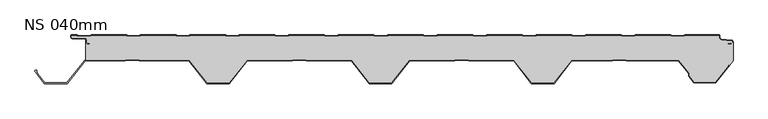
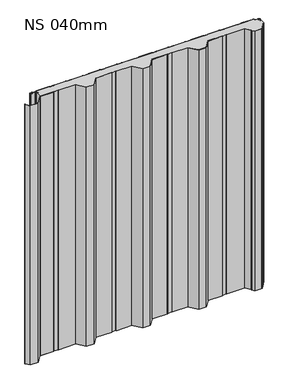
"""IFC4 building model written with IfcOpenShell, lengths in millimetres: plate geometry, KIP-MEX-KC-R19-CP-NS-SL : NS 040mm."""

from ifc_helpers import new_model, si_unit, point, frame, frame_2d, origin, origin_with_axes, place, context, project, spatial, polyline, circle_curve, trimmed, segment, composite_curve, outline, extrude, source, transform, mapped, element, save
from ifc_brep_helpers import plane_surface, cylinder_surface, revolved_surface, advanced_brep


def ns_040mm_68479433(model_context):
    return source(origin(), model_context, "Body", "SolidModel", [
        advanced_brep(
        [(489.051258, -50.0327477, 1224.3718713), (491.4166419, -45.6292245, 1224.3718713), (492.2982989, -46.1011177, 1224.3718713), (489.8911639, -50.5823669, 1224.3718713), (498.3652789, -39.7971296, 1224.3718713), (498.3666923, -11.2514375, 1224.3718713), (496.0840542, -13.6351997, 1224.3718713), (490.2938452, -14.1562355, 1224.3718713), (490.2059002, -13.178913, 1224.3718713), (495.9395891, -12.6629632, 1224.3718713), (497.3642752, -10.8760369, 1224.3718713), (495.9342793, -8.8936988, 1224.3718713), (479.8720443, -7.4885937, 1224.3718713), (477.1334803, -4.5000049, 1224.3718713), (477.1334803, -1.0, 1224.3718713), (424.1786391, -1.0, 1224.3718713), (422.7930062, -2.2002307, 1224.3718713), (403.4178399, -2.2002307, 1224.3718713), (402.0322069, -1.0, 1224.3718713), (347.9787915, -1.0, 1224.3718713), (346.5931586, -2.2002307, 1224.3718713), (327.2179923, -2.2002307, 1224.3718713), (325.8323593, -1.0, 1224.3718713), (271.7789439, -1.0, 1224.3718713), (270.393311, -2.2002307, 1224.3718713), (251.0181447, -2.2002307, 1224.3718713), (249.6325117, -1.0, 1224.3718713), (195.5790963, -1.0, 1224.3718713), (194.1934634, -2.2002307, 1224.3718713), (174.8182971, -2.2002307, 1224.3718713), (173.4326641, -1.0, 1224.3718713), (119.3792487, -1.0, 1224.3718713), (117.9936158, -2.2002307, 1224.3718713), (98.6184495, -2.2002307, 1224.3718713), (97.2328165, -1.0, 1224.3718713), (43.1794011, -1.0, 1224.3718713), (41.7937682, -2.2002307, 1224.3718713), (22.4186019, -2.2002307, 1224.3718713), (21.0329689, -1.0, 1224.3718713), (-33.0204465, -1.0, 1224.3718713), (-34.4060794, -2.2002307, 1224.3718713), (-53.7812457, -2.2002307, 1224.3718713), (-55.1668787, -1.0, 1224.3718713), (-109.2202941, -1.0, 1224.3718713), (-110.605927, -2.2002307, 1224.3718713), (-129.9810933, -2.2002307, 1224.3718713), (-131.3667263, -1.0, 1224.3718713), (-185.4201417, -1.0, 1224.3718713), (-186.8057746, -2.2002307, 1224.3718713), (-206.1809409, -2.2002307, 1224.3718713), (-207.5665739, -1.0, 1224.3718713), (-261.6199893, -1.0, 1224.3718713), (-263.0056222, -2.2002307, 1224.3718713), (-282.3807885, -2.2002307, 1224.3718713), (-283.7664215, -1.0, 1224.3718713), (-337.8198369, -1.0, 1224.3718713), (-339.2054698, -2.2002307, 1224.3718713), (-358.5806361, -2.2002307, 1224.3718713), (-359.9662691, -1.0, 1224.3718713), (-414.0196845, -1.0, 1224.3718713), (-415.4053174, -2.2002307, 1224.3718713), (-434.7804837, -2.2002307, 1224.3718713), (-436.1661167, -1.0, 1224.3718713), (-490.2195321, -1.0, 1224.3718713), (-491.605165, -2.2002307, 1224.3718713), (-510.9803313, -2.2002307, 1224.3718713), (-512.365974, -0.9999916, 1224.3718713), (-520.8675386, -0.9999916, 1224.3718713), (-520.8675386, -2.4999198, 1224.3718713), (-518.3676343, -4.9998241, 1224.3718713), (-500.3670493, -4.9998241, 1224.3718713), (-497.3666912, -7.998082, 1224.3718713), (-497.3666912, -11.5943952, 1224.3718713), (-496.1253972, -13.0725686, 1224.3718713), (-492.5830624, -13.6943971, 1224.3718713), (-492.7559608, -14.6793372, 1224.3718713), (-496.2982963, -14.0575086, 1224.3718713), (-498.3666923, -11.5958694, 1224.3718713), (-498.3666923, -39.0, 1224.3718713), (-437.8440582, -39.0, 1224.3718713), (-436.4297751, -37.9999989, 1224.3718713), (-417.2222535, -37.9999989, 1224.3718713), (-415.8079704, -39.0, 1224.3718713), (-339.3089934, -39.0, 1224.3718713), (-311.8089635, -74.000038, 1224.3718713), (-277.7809961, -74.000038, 1224.3718713), (-250.2809663, -39.0, 1224.3718713), (-180.8128881, -39.0, 1224.3718713), (-179.398605, -37.9999989, 1224.3718713), (-160.1910833, -37.9999989, 1224.3718713), (-158.7768003, -39.0, 1224.3718713), (-89.3087221, -39.0, 1224.3718713), (-61.8086922, -74.000038, 1224.3718713), (-27.7807248, -74.000038, 1224.3718713), (-0.280695, -39.0, 1224.3718713), (69.1090864, -39.0, 1224.3718713), (70.1732653, -37.9999989, 1224.3718713), (89.809188, -37.9999989, 1224.3718713), (91.2234711, -39.0, 1224.3718713), (160.6915492, -39.0, 1224.3718713), (188.1915791, -74.000038, 1224.3718713), (222.2195465, -74.000038, 1224.3718713), (249.7195763, -39.0, 1224.3718713), (312.1567557, -39.0, 1224.3718713), (313.5710388, -37.9999989, 1224.3718713), (332.7785605, -37.9999989, 1224.3718713), (334.1928435, -39.0, 1224.3718713), (414.6918249, -39.0, 1224.3718713), (430.7058064, -59.3814311, 1224.3718713), (430.7058064, -63.199617, 1224.3718713), (438.4061363, -73.0000369, 1224.3718713), (471.0055308, -73.0000369, 1224.3718713), (489.051258, -50.0327477, 0.0), (471.0055308, -73.0000369, 0.0), (438.4061363, -73.0000369, 0.0), (430.7058064, -63.199617, 0.0), (430.7058064, -59.3814311, 0.0), (414.6918249, -39.0, 0.0), (334.1928435, -39.0, 0.0), (332.7785605, -37.9999989, 0.0), (313.5710388, -37.9999989, 0.0), (312.1567557, -39.0, 0.0), (249.7195763, -39.0, 0.0), (222.2195465, -74.000038, 0.0), (188.1915791, -74.000038, 0.0), (160.6915492, -39.0, 0.0), (91.2234711, -39.0, 0.0), (89.809188, -37.9999989, 0.0), (70.1732653, -37.9999989, 0.0), (69.1090864, -39.0, 0.0), (-0.280695, -39.0, 0.0), (-27.7807248, -74.000038, 0.0), (-61.8086922, -74.000038, 0.0), (-89.3087221, -39.0, 0.0), (-158.7768003, -39.0, 0.0), (-160.1910833, -37.9999989, 0.0), (-179.398605, -37.9999989, 0.0), (-180.8128881, -39.0, 0.0), (-250.2809663, -39.0, 0.0), (-277.7809961, -74.000038, 0.0), (-311.8089635, -74.000038, 0.0), (-339.3089934, -39.0, 0.0), (-415.8079704, -39.0, 0.0), (-417.2222535, -37.9999989, 0.0), (-436.4297751, -37.9999989, 0.0), (-437.8440582, -39.0, 0.0), (-498.3666923, -39.0, 0.0), (-498.3666923, -11.5958694, 0.0), (-496.2982963, -14.0575086, 0.0), (-492.7559608, -14.6793372, 0.0), (-492.5830624, -13.6943971, 0.0), (-496.1253972, -13.0725686, 0.0), (-497.3666912, -11.5943952, 0.0), (-497.3666912, -7.998082, 0.0), (-500.3670493, -4.9998241, 0.0), (-518.3676343, -4.9998241, 0.0), (-520.8675386, -2.4999198, 0.0), (-520.8675386, -0.9999916, 0.0), (-512.365974, -0.9999916, 0.0), (-510.9803313, -2.2002307, 0.0), (-491.605165, -2.2002307, 0.0), (-490.2195321, -1.0, 0.0), (-436.1661167, -1.0, 0.0), (-434.7804837, -2.2002307, 0.0), (-415.4053174, -2.2002307, 0.0), (-414.0196845, -1.0, 0.0), (-359.9662691, -1.0, 0.0), (-358.5806361, -2.2002307, 0.0), (-339.2054698, -2.2002307, 0.0), (-337.8198369, -1.0, 0.0), (-283.7664215, -1.0, 0.0), (-282.3807885, -2.2002307, 0.0), (-263.0056222, -2.2002307, 0.0), (-261.6199893, -1.0, 0.0), (-207.5665739, -1.0, 0.0), (-206.1809409, -2.2002307, 0.0), (-186.8057746, -2.2002307, 0.0), (-185.4201417, -1.0, 0.0), (-131.3667263, -1.0, 0.0), (-129.9810933, -2.2002307, 0.0), (-110.605927, -2.2002307, 0.0), (-109.2202941, -1.0, 0.0), (-55.1668787, -1.0, 0.0), (-53.7812457, -2.2002307, 0.0), (-34.4060794, -2.2002307, 0.0), (-33.0204465, -1.0, 0.0), (21.0329689, -1.0, 0.0), (22.4186019, -2.2002307, 0.0), (41.7937682, -2.2002307, 0.0), (43.1794011, -1.0, 0.0), (97.2328165, -1.0, 0.0), (98.6184495, -2.2002307, 0.0), (117.9936158, -2.2002307, 0.0), (119.3792487, -1.0, 0.0), (173.4326641, -1.0, 0.0), (174.8182971, -2.2002307, 0.0), (194.1934634, -2.2002307, 0.0), (195.5790963, -1.0, 0.0), (249.6325117, -1.0, 0.0), (251.0181447, -2.2002307, 0.0), (270.393311, -2.2002307, 0.0), (271.7789439, -1.0, 0.0), (325.8323593, -1.0, 0.0), (327.2179923, -2.2002307, 0.0), (346.5931586, -2.2002307, 0.0), (347.9787915, -1.0, 0.0), (402.0322069, -1.0, 0.0), (403.4178399, -2.2002307, 0.0), (422.7930062, -2.2002307, 0.0), (424.1786391, -1.0, 0.0), (477.1334803, -1.0, 0.0), (477.1334803, -4.5000049, 0.0), (479.8720443, -7.4885937, 0.0), (495.9342793, -8.8936988, 0.0), (497.3642752, -10.8760369, 0.0), (495.9395891, -12.6629632, 0.0), (490.2059002, -13.178913, 0.0), (490.2938452, -14.1562355, 0.0), (496.0840542, -13.6351997, 0.0), (498.3666923, -11.2514375, 0.0), (498.3652789, -39.7971296, 0.0), (489.8911639, -50.5823669, 0.0), (492.2982989, -46.1011177, 0.0), (491.4166419, -45.6292245, 0.0)],
        [
            (0, 1),
            (1, 2),
            (2, 3),
            (3, 4),
            (4, 5),
            (5, 6, circle_curve(frame((495.5554081, -10.8441969, 1224.3718713), z_axis=(0.0, 0.0, -1.0), x_axis=(0.0, -1.0, 0.0)), 2.8406273)),
            (6, 7),
            (7, 8),
            (8, 9),
            (9, 10, circle_curve(frame((495.560247, -10.8991179, 1224.3718713), z_axis=(0.0, 0.0, 1.0), x_axis=(0.0, -1.0, 0.0)), 1.8041759)),
            (10, 11, circle_curve(frame((495.5292107, -10.6928483, 1224.3718713), z_axis=(0.0, 0.0, 1.0), x_axis=(0.0, -1.0, 0.0)), 1.8441854)),
            (11, 12),
            (12, 13, circle_curve(frame((480.1334825, -4.5000049, 1224.3718713), z_axis=(0.0, 0.0, -1.0), x_axis=(0.0, -1.0, 0.0)), 3.0000022)),
            (13, 14),
            (14, 15),
            (15, 16),
            (16, 17),
            (17, 18),
            (18, 19),
            (19, 20),
            (20, 21),
            (21, 22),
            (22, 23),
            (23, 24),
            (24, 25),
            (25, 26),
            (26, 27),
            (27, 28),
            (28, 29),
            (29, 30),
            (30, 31),
            (31, 32),
            (32, 33),
            (33, 34),
            (34, 35),
            (35, 36),
            (36, 37),
            (37, 38),
            (38, 39),
            (39, 40),
            (40, 41),
            (41, 42),
            (42, 43),
            (43, 44),
            (44, 45),
            (45, 46),
            (46, 47),
            (47, 48),
            (48, 49),
            (49, 50),
            (50, 51),
            (51, 52),
            (52, 53),
            (53, 54),
            (54, 55),
            (55, 56),
            (56, 57),
            (57, 58),
            (58, 59),
            (59, 60),
            (60, 61),
            (61, 62),
            (62, 63),
            (63, 64),
            (64, 65),
            (65, 66),
            (66, 67),
            (67, 68),
            (68, 69, circle_curve(frame((-518.3676343, -2.4999198, 1224.3718713), z_axis=(0.0, 0.0, 1.0), x_axis=(0.0, -1.0, 0.0)), 2.4999043)),
            (69, 70),
            (70, 71, circle_curve(frame((-500.3670493, -8.0001829, 1224.3718713), z_axis=(0.0, 0.0, -1.0), x_axis=(0.0, -1.0, 0.0)), 3.0003589)),
            (71, 72),
            (72, 73, circle_curve(frame((-495.8659157, -11.5943952, 1224.3718713), z_axis=(0.0, 0.0, 1.0), x_axis=(0.0, -1.0, 0.0)), 1.5007755)),
            (73, 74),
            (74, 75),
            (75, 76),
            (76, 77, circle_curve(frame((-495.8659164, -11.5943948, 1224.3718713), z_axis=(0.0, 0.0, -1.0), x_axis=(0.0, -1.0, 0.0)), 2.5007762)),
            (77, 78),
            (78, 79),
            (79, 80),
            (80, 81),
            (81, 82),
            (82, 83),
            (83, 84),
            (84, 85),
            (85, 86),
            (86, 87),
            (87, 88),
            (88, 89),
            (89, 90),
            (90, 91),
            (91, 92),
            (92, 93),
            (93, 94),
            (94, 95),
            (95, 96),
            (96, 97),
            (97, 98),
            (98, 99),
            (99, 100),
            (100, 101),
            (101, 102),
            (102, 103),
            (103, 104),
            (104, 105),
            (105, 106),
            (106, 107),
            (107, 108),
            (108, 109),
            (109, 110),
            (110, 111),
            (111, 0),
            (112, 113),
            (113, 114),
            (114, 115),
            (115, 116),
            (116, 117),
            (117, 118),
            (118, 119),
            (119, 120),
            (120, 121),
            (121, 122),
            (122, 123),
            (123, 124),
            (124, 125),
            (125, 126),
            (126, 127),
            (127, 128),
            (128, 129),
            (129, 130),
            (130, 131),
            (131, 132),
            (132, 133),
            (133, 134),
            (134, 135),
            (135, 136),
            (136, 137),
            (137, 138),
            (138, 139),
            (139, 140),
            (140, 141),
            (141, 142),
            (142, 143),
            (143, 144),
            (144, 145),
            (145, 146),
            (146, 147),
            (147, 148, circle_curve(frame((-495.8659164, -11.5943948, 0.0), z_axis=(0.0, 0.0, 1.0), x_axis=(0.0, -1.0, 0.0)), 2.5007762)),
            (148, 149),
            (149, 150),
            (150, 151),
            (151, 152, circle_curve(frame((-495.8659157, -11.5943952, 0.0), z_axis=(0.0, 0.0, -1.0), x_axis=(0.0, -1.0, 0.0)), 1.5007755)),
            (152, 153),
            (153, 154, circle_curve(frame((-500.3670493, -8.0001829, 0.0), z_axis=(0.0, 0.0, 1.0), x_axis=(0.0, -1.0, 0.0)), 3.0003589)),
            (154, 155),
            (155, 156, circle_curve(frame((-518.3676343, -2.4999198, 0.0), z_axis=(0.0, 0.0, -1.0), x_axis=(0.0, -1.0, 0.0)), 2.4999043)),
            (156, 157),
            (157, 158),
            (158, 159),
            (159, 160),
            (160, 161),
            (161, 162),
            (162, 163),
            (163, 164),
            (164, 165),
            (165, 166),
            (166, 167),
            (167, 168),
            (168, 169),
            (169, 170),
            (170, 171),
            (171, 172),
            (172, 173),
            (173, 174),
            (174, 175),
            (175, 176),
            (176, 177),
            (177, 178),
            (178, 179),
            (179, 180),
            (180, 181),
            (181, 182),
            (182, 183),
            (183, 184),
            (184, 185),
            (185, 186),
            (186, 187),
            (187, 188),
            (188, 189),
            (189, 190),
            (190, 191),
            (191, 192),
            (192, 193),
            (193, 194),
            (194, 195),
            (195, 196),
            (196, 197),
            (197, 198),
            (198, 199),
            (199, 200),
            (200, 201),
            (201, 202),
            (202, 203),
            (203, 204),
            (204, 205),
            (205, 206),
            (206, 207),
            (207, 208),
            (208, 209),
            (209, 210),
            (210, 211),
            (211, 212, circle_curve(frame((480.1334825, -4.5000049, 0.0), z_axis=(0.0, 0.0, 1.0), x_axis=(0.0, -1.0, 0.0)), 3.0000022)),
            (212, 213),
            (213, 214, circle_curve(frame((495.5292107, -10.6928483, 0.0), z_axis=(0.0, 0.0, -1.0), x_axis=(0.0, -1.0, 0.0)), 1.8441854)),
            (214, 215, circle_curve(frame((495.560247, -10.8991179, 0.0), z_axis=(0.0, 0.0, -1.0), x_axis=(0.0, -1.0, 0.0)), 1.8041759)),
            (215, 216),
            (216, 217),
            (217, 218),
            (218, 219, circle_curve(frame((495.5554081, -10.8441969, 0.0), z_axis=(0.0, 0.0, 1.0), x_axis=(0.0, -1.0, 0.0)), 2.8406273)),
            (219, 220),
            (220, 221),
            (221, 222),
            (222, 223),
            (223, 112),
            (0, 112),
            (223, 1),
            (111, 113),
            (110, 114),
            (109, 115),
            (108, 116),
            (107, 117),
            (106, 118),
            (105, 119),
            (104, 120),
            (103, 121),
            (102, 122),
            (101, 123),
            (100, 124),
            (99, 125),
            (98, 126),
            (97, 127),
            (96, 128),
            (95, 129),
            (94, 130),
            (93, 131),
            (92, 132),
            (91, 133),
            (90, 134),
            (89, 135),
            (88, 136),
            (87, 137),
            (86, 138),
            (85, 139),
            (84, 140),
            (83, 141),
            (82, 142),
            (81, 143),
            (80, 144),
            (79, 145),
            (78, 146),
            (2, 222),
            (221, 3),
            (220, 4),
            (219, 5),
            (77, 147),
            (73, 151),
            (150, 74),
            (72, 152),
            (71, 153),
            (70, 154),
            (69, 155),
            (68, 156),
            (67, 157),
            (13, 211),
            (210, 14),
            (12, 212),
            (11, 213),
            (10, 214),
            (9, 215),
            (8, 216),
            (7, 217),
            (6, 218),
            (76, 148),
            (75, 149),
            (66, 158),
            (65, 159),
            (64, 160),
            (63, 161),
            (62, 162),
            (61, 163),
            (60, 164),
            (59, 165),
            (58, 166),
            (57, 167),
            (56, 168),
            (55, 169),
            (54, 170),
            (53, 171),
            (52, 172),
            (51, 173),
            (50, 174),
            (49, 175),
            (48, 176),
            (47, 177),
            (46, 178),
            (45, 179),
            (44, 180),
            (43, 181),
            (42, 182),
            (41, 183),
            (40, 184),
            (39, 185),
            (38, 186),
            (37, 187),
            (36, 188),
            (35, 189),
            (34, 190),
            (33, 191),
            (32, 192),
            (31, 193),
            (30, 194),
            (29, 195),
            (28, 196),
            (27, 197),
            (26, 198),
            (25, 199),
            (24, 200),
            (23, 201),
            (22, 202),
            (21, 203),
            (20, 204),
            (19, 205),
            (18, 206),
            (17, 207),
            (16, 208),
            (15, 209),
        ],
        [
            plane_surface(frame((0.0, -39.0, 1224.3718713), z_axis=(0.0, 0.0, 1.0), x_axis=(0.0, -1.0, 0.0))),
            plane_surface(frame((0.0, -39.0, 0.0), z_axis=(0.0, 0.0, -1.0), x_axis=(0.0, -1.0, 0.0))),
            plane_surface(frame((491.4166419, -45.6292245, 1224.3718713), z_axis=(0.8809503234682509, -0.4732087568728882, 0.0), x_axis=(0.0, 0.0, -1.0))),
            plane_surface(frame((489.051258, -50.0327477, 1224.3718713), z_axis=(0.7863183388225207, -0.6178215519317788, 0.0), x_axis=(0.0, 0.0, -1.0))),
            plane_surface(frame((471.0055308, -73.0000369, 1224.3718713), z_axis=(0.0, -1.0, 0.0), x_axis=(0.0, 0.0, -1.0))),
            plane_surface(frame((438.4061363, -73.0000369, 1224.3718713), z_axis=(-0.7863183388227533, -0.6178215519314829, 0.0), x_axis=(0.0, 0.0, -1.0))),
            plane_surface(frame((430.7058064, -63.199617, 1224.3718713), z_axis=(-1.0, 0.0, 0.0), x_axis=(0.0, 0.0, -1.0))),
            plane_surface(frame((430.7058064, -59.3814311, 1224.3718713), z_axis=(-0.7863183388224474, -0.6178215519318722, 0.0), x_axis=(0.0, 0.0, -1.0))),
            plane_surface(frame((414.6918249, -39.0, 1224.3718713), z_axis=(0.0, -1.0, 0.0), x_axis=(0.0, 0.0, -1.0))),
            plane_surface(frame((334.1928435, -39.0, 1224.3718713), z_axis=(-0.5773317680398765, -0.8165096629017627, 0.0), x_axis=(0.0, 0.0, -1.0))),
            plane_surface(frame((332.7785605, -37.9999989, 1224.3718713), z_axis=(0.0, -1.0, 0.0), x_axis=(0.0, 0.0, -1.0))),
            plane_surface(frame((313.5710388, -37.9999989, 1224.3718713), z_axis=(0.5773317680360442, -0.8165096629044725, 0.0), x_axis=(0.0, 0.0, -1.0))),
            plane_surface(frame((312.1567557, -39.0, 1224.3718713), z_axis=(0.0, -1.0, 0.0), x_axis=(0.0, 0.0, -1.0))),
            plane_surface(frame((249.7195763, -39.0, 1224.3718713), z_axis=(0.7863183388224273, -0.6178215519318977, 0.0), x_axis=(0.0, 0.0, -1.0))),
            plane_surface(frame((222.2195465, -74.000038, 1224.3718713), z_axis=(0.0, -1.0, 0.0), x_axis=(0.0, 0.0, -1.0))),
            plane_surface(frame((188.1915791, -74.000038, 1224.3718713), z_axis=(-0.7863183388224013, -0.6178215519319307, 0.0), x_axis=(0.0, 0.0, -1.0))),
            plane_surface(frame((160.6915492, -39.0, 1224.3718713), z_axis=(0.0, -1.0, 0.0), x_axis=(0.0, 0.0, -1.0))),
            plane_surface(frame((91.2234711, -39.0, 1224.3718713), z_axis=(-0.5773317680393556, -0.8165096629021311, 0.0), x_axis=(0.0, 0.0, -1.0))),
            plane_surface(frame((89.809188, -37.9999989, 1224.3718713), z_axis=(0.0, -1.0, 0.0), x_axis=(0.0, 0.0, -1.0))),
            plane_surface(frame((70.1732653, -37.9999989, 1224.3718713), z_axis=(0.6847910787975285, -0.7287394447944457, 0.0), x_axis=(0.0, 0.0, -1.0))),
            plane_surface(frame((69.1090864, -39.0, 1224.3718713), z_axis=(0.0, -1.0, 0.0), x_axis=(0.0, 0.0, -1.0))),
            plane_surface(frame((-0.280695, -39.0, 1224.3718713), z_axis=(0.7863183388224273, -0.6178215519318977, 0.0), x_axis=(0.0, 0.0, -1.0))),
            plane_surface(frame((-27.7807248, -74.000038, 1224.3718713), z_axis=(0.0, -1.0, 0.0), x_axis=(0.0, 0.0, -1.0))),
            plane_surface(frame((-61.8086922, -74.000038, 1224.3718713), z_axis=(-0.786318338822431, -0.617821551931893, 0.0), x_axis=(0.0, 0.0, -1.0))),
            plane_surface(frame((-89.3087221, -39.0, 1224.3718713), z_axis=(0.0, -1.0, 0.0), x_axis=(0.0, 0.0, -1.0))),
            plane_surface(frame((-158.7768003, -39.0, 1224.3718713), z_axis=(-0.5773317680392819, -0.8165096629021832, 0.0), x_axis=(0.0, 0.0, -1.0))),
            plane_surface(frame((-160.1910833, -37.9999989, 1224.3718713), z_axis=(0.0, -1.0, 0.0), x_axis=(0.0, 0.0, -1.0))),
            plane_surface(frame((-179.398605, -37.9999989, 1224.3718713), z_axis=(0.577331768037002, -0.8165096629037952, 0.0), x_axis=(0.0, 0.0, -1.0))),
            plane_surface(frame((-180.8128881, -39.0, 1224.3718713), z_axis=(0.0, -1.0, 0.0), x_axis=(0.0, 0.0, -1.0))),
            plane_surface(frame((-250.2809663, -39.0, 1224.3718713), z_axis=(0.7863183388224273, -0.6178215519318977, 0.0), x_axis=(0.0, 0.0, -1.0))),
            plane_surface(frame((-277.7809961, -74.000038, 1224.3718713), z_axis=(0.0, -1.0, 0.0), x_axis=(0.0, 0.0, -1.0))),
            plane_surface(frame((-311.8089635, -74.000038, 1224.3718713), z_axis=(-0.7863183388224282, -0.6178215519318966, 0.0), x_axis=(0.0, 0.0, -1.0))),
            plane_surface(frame((-339.3089934, -39.0, 1224.3718713), z_axis=(0.0, -1.0, 0.0), x_axis=(0.0, 0.0, -1.0))),
            plane_surface(frame((-415.8079704, -39.0, 1224.3718713), z_axis=(-0.577331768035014, -0.8165096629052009, 0.0), x_axis=(0.0, 0.0, -1.0))),
            plane_surface(frame((-417.2222535, -37.9999989, 1224.3718713), z_axis=(0.0, -1.0, 0.0), x_axis=(0.0, 0.0, -1.0))),
            plane_surface(frame((-436.4297751, -37.9999989, 1224.3718713), z_axis=(0.577331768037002, -0.8165096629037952, 0.0), x_axis=(0.0, 0.0, -1.0))),
            plane_surface(frame((-437.8440582, -39.0, 1224.3718713), z_axis=(0.0, -1.0, 0.0), x_axis=(0.0, 0.0, -1.0))),
            plane_surface(frame((489.8911639, -50.5823669, 1224.3718713), z_axis=(-0.8809503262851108, 0.4732087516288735, 0.0), x_axis=(0.0, 0.0, -1.0))),
            plane_surface(frame((492.2982989, -46.1011177, 1224.3718713), z_axis=(-0.4718927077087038, -0.8816559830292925, 0.0), x_axis=(0.0, 0.0, -1.0))),
            plane_surface(frame((498.3652789, -39.7971296, 1224.3718713), z_axis=(0.7863183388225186, -0.6178215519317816, 0.0), x_axis=(0.0, 0.0, -1.0))),
            plane_surface(frame((498.3652789, -34.8065083, 1224.3718713), z_axis=(1.0, 0.0, 0.0), x_axis=(0.0, 0.0, -1.0))),
            plane_surface(frame((-498.3666923, -39.0, 1224.3718713), z_axis=(-1.0, 0.0, 0.0), x_axis=(0.0, 0.0, -1.0))),
            plane_surface(frame((-492.5830624, -13.6943971, 1224.3718713), z_axis=(-0.17289827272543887, -0.9849396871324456, 0.0), x_axis=(0.0, 0.0, -1.0))),
            cylinder_surface(frame((-495.8659157, -11.5943952, 1224.3718713), z_axis=(0.0, 0.0, 1.0), x_axis=(0.0, -1.0, 0.0)), 1.5007755),
            plane_surface(frame((-497.3666912, -11.5943952, 1224.3718713), z_axis=(-1.0, 0.0, 0.0), x_axis=(0.0, 0.0, -1.0))),
            revolved_surface(polyline([(-500.3670493, -11.0005418, 0.0), (-500.3670493, -11.0005418, 1224.3718713)]), (-500.3670493, -8.0001829, 1224.3718713), (0.0, 0.0, -1.0)),
            plane_surface(frame((-500.3670493, -4.9998241, 1224.3718713), z_axis=(0.0, -1.0, 0.0), x_axis=(0.0, 0.0, -1.0))),
            cylinder_surface(frame((-518.3676343, -2.4999198, 1224.3718713), z_axis=(0.0, 0.0, 1.0), x_axis=(0.0, -1.0, 0.0)), 2.4999043),
            plane_surface(frame((-520.8675386, -2.4999198, 1224.3718713), z_axis=(-1.0, 0.0, 0.0), x_axis=(0.0, 0.0, -1.0))),
            plane_surface(frame((477.1334803, -1.0, 1224.3718713), z_axis=(1.0, 0.0, 0.0), x_axis=(0.0, 0.0, -1.0))),
            revolved_surface(polyline([(480.1334825, -7.5000071, 0.0), (480.1334825, -7.5000071, 1224.3718713)]), (480.1334825, -4.5000049, 1224.3718713), (0.0, 0.0, -1.0)),
            plane_surface(frame((479.8720443, -7.4885937, 1224.3718713), z_axis=(0.0871459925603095, 0.9961955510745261, 0.0), x_axis=(0.0, 0.0, -1.0))),
            cylinder_surface(frame((495.5292107, -10.6928483, 1224.3718713), z_axis=(0.0, 0.0, 1.0), x_axis=(0.0, -1.0, 0.0)), 1.8441854),
            cylinder_surface(frame((495.560247, -10.8991179, 1224.3718713), z_axis=(0.0, 0.0, 1.0), x_axis=(0.0, -1.0, 0.0)), 1.8041759),
            plane_surface(frame((495.9395891, -12.6629632, 1224.3718713), z_axis=(0.0896235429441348, -0.995975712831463, 0.0), x_axis=(0.0, 0.0, -1.0))),
            plane_surface(frame((490.2059002, -13.178913, 1224.3718713), z_axis=(0.9959757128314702, 0.08962354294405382, 0.0), x_axis=(0.0, 0.0, -1.0))),
            plane_surface(frame((490.2938452, -14.1562355, 1224.3718713), z_axis=(-0.0896235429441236, 0.995975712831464, 0.0), x_axis=(0.0, 0.0, -1.0))),
            revolved_surface(polyline([(495.5554081, -13.6848242, 0.0), (495.5554081, -13.6848242, 1224.3718713)]), (495.5554081, -10.8441969, 1224.3718713), (0.0, 0.0, -1.0)),
            revolved_surface(polyline([(-495.8659164, -14.095171, 0.0), (-495.8659164, -14.095171, 1224.3718713)]), (-495.8659164, -11.5943948, 1224.3718713), (0.0, 0.0, -1.0)),
            plane_surface(frame((-496.2982963, -14.0575086, 1224.3718713), z_axis=(0.17289827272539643, 0.9849396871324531, 0.0), x_axis=(0.0, 0.0, -1.0))),
            plane_surface(frame((-492.7559608, -14.6793372, 1224.3718713), z_axis=(-0.9849396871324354, 0.1728982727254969, 0.0), x_axis=(0.0, 0.0, -1.0))),
            plane_surface(frame((-520.8675386, -0.9999916, 1224.3718713), z_axis=(0.0, 1.0, 0.0), x_axis=(0.0, 0.0, -1.0))),
            plane_surface(frame((-512.365974, -0.9999916, 1224.3718713), z_axis=(0.6547276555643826, 0.7558648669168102, 0.0), x_axis=(0.0, 0.0, -1.0))),
            plane_surface(frame((-510.9803313, -2.2002307, 1224.3718713), z_axis=(0.0, 1.0, 0.0), x_axis=(0.0, 0.0, -1.0))),
            plane_surface(frame((-491.605165, -2.2002307, 1224.3718713), z_axis=(-0.6547276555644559, 0.7558648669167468, 0.0), x_axis=(0.0, 0.0, -1.0))),
            plane_surface(frame((-490.2195321, -1.0, 1224.3718713), z_axis=(0.0, 1.0, 0.0), x_axis=(0.0, 0.0, -1.0))),
            plane_surface(frame((-436.1661167, -1.0, 1224.3718713), z_axis=(0.6547276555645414, 0.7558648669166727, 0.0), x_axis=(0.0, 0.0, -1.0))),
            plane_surface(frame((-434.7804837, -2.2002307, 1224.3718713), z_axis=(0.0, 1.0, 0.0), x_axis=(0.0, 0.0, -1.0))),
            plane_surface(frame((-415.4053174, -2.2002307, 1224.3718713), z_axis=(-0.6547276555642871, 0.755864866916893, 0.0), x_axis=(0.0, 0.0, -1.0))),
            plane_surface(frame((-414.0196845, -1.0, 1224.3718713), z_axis=(0.0, 1.0, 0.0), x_axis=(0.0, 0.0, -1.0))),
            plane_surface(frame((-359.9662691, -1.0, 1224.3718713), z_axis=(0.6547276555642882, 0.7558648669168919, 0.0), x_axis=(0.0, 0.0, -1.0))),
            plane_surface(frame((-358.5806361, -2.2002307, 1224.3718713), z_axis=(0.0, 1.0, 0.0), x_axis=(0.0, 0.0, -1.0))),
            plane_surface(frame((-339.2054698, -2.2002307, 1224.3718713), z_axis=(-0.6547276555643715, 0.7558648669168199, 0.0), x_axis=(0.0, 0.0, -1.0))),
            plane_surface(frame((-337.8198369, -1.0, 1224.3718713), z_axis=(0.0, 1.0, 0.0), x_axis=(0.0, 0.0, -1.0))),
            plane_surface(frame((-283.7664215, -1.0, 1224.3718713), z_axis=(0.6547276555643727, 0.7558648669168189, 0.0), x_axis=(0.0, 0.0, -1.0))),
            plane_surface(frame((-282.3807885, -2.2002307, 1224.3718713), z_axis=(0.0, 1.0, 0.0), x_axis=(0.0, 0.0, -1.0))),
            plane_surface(frame((-263.0056222, -2.2002307, 1224.3718713), z_axis=(-0.6547276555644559, 0.7558648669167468, 0.0), x_axis=(0.0, 0.0, -1.0))),
            plane_surface(frame((-261.6199893, -1.0, 1224.3718713), z_axis=(0.0, 1.0, 0.0), x_axis=(0.0, 0.0, -1.0))),
            plane_surface(frame((-207.5665739, -1.0, 1224.3718713), z_axis=(0.654727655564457, 0.7558648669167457, 0.0), x_axis=(0.0, 0.0, -1.0))),
            plane_surface(frame((-206.1809409, -2.2002307, 1224.3718713), z_axis=(0.0, 1.0, 0.0), x_axis=(0.0, 0.0, -1.0))),
            plane_surface(frame((-186.8057746, -2.2002307, 1224.3718713), z_axis=(-0.6547276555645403, 0.7558648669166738, 0.0), x_axis=(0.0, 0.0, -1.0))),
            plane_surface(frame((-185.4201417, -1.0, 1224.3718713), z_axis=(0.0, 1.0, 0.0), x_axis=(0.0, 0.0, -1.0))),
            plane_surface(frame((-131.3667263, -1.0, 1224.3718713), z_axis=(0.6547276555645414, 0.7558648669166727, 0.0), x_axis=(0.0, 0.0, -1.0))),
            plane_surface(frame((-129.9810933, -2.2002307, 1224.3718713), z_axis=(0.0, 1.0, 0.0), x_axis=(0.0, 0.0, -1.0))),
            plane_surface(frame((-110.605927, -2.2002307, 1224.3718713), z_axis=(-0.6547276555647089, 0.7558648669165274, 0.0), x_axis=(0.0, 0.0, -1.0))),
            plane_surface(frame((-109.2202941, -1.0, 1224.3718713), z_axis=(0.0, 1.0, 0.0), x_axis=(0.0, 0.0, -1.0))),
            plane_surface(frame((-55.1668787, -1.0, 1224.3718713), z_axis=(0.6547276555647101, 0.7558648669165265, 0.0), x_axis=(0.0, 0.0, -1.0))),
            plane_surface(frame((-53.7812457, -2.2002307, 1224.3718713), z_axis=(0.0, 1.0, 0.0), x_axis=(0.0, 0.0, -1.0))),
            plane_surface(frame((-34.4060794, -2.2002307, 1224.3718713), z_axis=(-0.6547276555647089, 0.7558648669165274, 0.0), x_axis=(0.0, 0.0, -1.0))),
            plane_surface(frame((-33.0204465, -1.0, 1224.3718713), z_axis=(0.0, 1.0, 0.0), x_axis=(0.0, 0.0, -1.0))),
            plane_surface(frame((21.0329689, -1.0, 1224.3718713), z_axis=(0.6547276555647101, 0.7558648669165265, 0.0), x_axis=(0.0, 0.0, -1.0))),
            plane_surface(frame((22.4186019, -2.2002307, 1224.3718713), z_axis=(0.0, 1.0, 0.0), x_axis=(0.0, 0.0, -1.0))),
            plane_surface(frame((41.7937682, -2.2002307, 1224.3718713), z_axis=(-0.6547276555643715, 0.7558648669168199, 0.0), x_axis=(0.0, 0.0, -1.0))),
            plane_surface(frame((43.1794011, -1.0, 1224.3718713), z_axis=(0.0, 1.0, 0.0), x_axis=(0.0, 0.0, -1.0))),
            plane_surface(frame((97.2328165, -1.0, 1224.3718713), z_axis=(0.6547276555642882, 0.7558648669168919, 0.0), x_axis=(0.0, 0.0, -1.0))),
            plane_surface(frame((98.6184495, -2.2002307, 1224.3718713), z_axis=(0.0, 1.0, 0.0), x_axis=(0.0, 0.0, -1.0))),
            plane_surface(frame((117.9936158, -2.2002307, 1224.3718713), z_axis=(-0.6547276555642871, 0.755864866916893, 0.0), x_axis=(0.0, 0.0, -1.0))),
            plane_surface(frame((119.3792487, -1.0, 1224.3718713), z_axis=(0.0, 1.0, 0.0), x_axis=(0.0, 0.0, -1.0))),
            plane_surface(frame((173.4326641, -1.0, 1224.3718713), z_axis=(0.6547276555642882, 0.7558648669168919, 0.0), x_axis=(0.0, 0.0, -1.0))),
            plane_surface(frame((174.8182971, -2.2002307, 1224.3718713), z_axis=(0.0, 1.0, 0.0), x_axis=(0.0, 0.0, -1.0))),
            plane_surface(frame((194.1934634, -2.2002307, 1224.3718713), z_axis=(-0.6547276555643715, 0.7558648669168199, 0.0), x_axis=(0.0, 0.0, -1.0))),
            plane_surface(frame((195.5790963, -1.0, 1224.3718713), z_axis=(0.0, 1.0, 0.0), x_axis=(0.0, 0.0, -1.0))),
            plane_surface(frame((249.6325117, -1.0, 1224.3718713), z_axis=(0.6547276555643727, 0.7558648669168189, 0.0), x_axis=(0.0, 0.0, -1.0))),
            plane_surface(frame((251.0181447, -2.2002307, 1224.3718713), z_axis=(0.0, 1.0, 0.0), x_axis=(0.0, 0.0, -1.0))),
            plane_surface(frame((270.393311, -2.2002307, 1224.3718713), z_axis=(-0.6547276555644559, 0.7558648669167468, 0.0), x_axis=(0.0, 0.0, -1.0))),
            plane_surface(frame((271.7789439, -1.0, 1224.3718713), z_axis=(0.0, 1.0, 0.0), x_axis=(0.0, 0.0, -1.0))),
            plane_surface(frame((325.8323593, -1.0, 1224.3718713), z_axis=(0.654727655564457, 0.7558648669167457, 0.0), x_axis=(0.0, 0.0, -1.0))),
            plane_surface(frame((327.2179923, -2.2002307, 1224.3718713), z_axis=(0.0, 1.0, 0.0), x_axis=(0.0, 0.0, -1.0))),
            plane_surface(frame((346.5931586, -2.2002307, 1224.3718713), z_axis=(-0.6547276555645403, 0.7558648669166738, 0.0), x_axis=(0.0, 0.0, -1.0))),
            plane_surface(frame((347.9787915, -1.0, 1224.3718713), z_axis=(0.0, 1.0, 0.0), x_axis=(0.0, 0.0, -1.0))),
            plane_surface(frame((402.0322069, -1.0, 1224.3718713), z_axis=(0.6547276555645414, 0.7558648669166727, 0.0), x_axis=(0.0, 0.0, -1.0))),
            plane_surface(frame((403.4178399, -2.2002307, 1224.3718713), z_axis=(0.0, 1.0, 0.0), x_axis=(0.0, 0.0, -1.0))),
            plane_surface(frame((422.7930062, -2.2002307, 1224.3718713), z_axis=(-0.6547276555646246, 0.7558648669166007, 0.0), x_axis=(0.0, 0.0, -1.0))),
            plane_surface(frame((424.1786391, -1.0, 1224.3718713), z_axis=(0.0, 1.0, 0.0), x_axis=(0.0, 0.0, -1.0))),
        ],
        [
            (0, [[1, 2, 3, 4, 5, 6, 7, 8, 9, 10, 11, 12, 13, 14, 15, 16, 17, 18, 19, 20, 21, 22, 23, 24, 25, 26, 27, 28, 29, 30, 31, 32, 33, 34, 35, 36, 37, 38, 39, 40, 41, 42, 43, 44, 45, 46, 47, 48, 49, 50, 51, 52, 53, 54, 55, 56, 57, 58, 59, 60, 61, 62, 63, 64, 65, 66, 67, 68, 69, 70, 71, 72, 73, 74, 75, 76, 77, 78, 79, 80, 81, 82, 83, 84, 85, 86, 87, 88, 89, 90, 91, 92, 93, 94, 95, 96, 97, 98, 99, 100, 101, 102, 103, 104, 105, 106, 107, 108, 109, 110, 111, 112]]),
            (1, [[113, 114, 115, 116, 117, 118, 119, 120, 121, 122, 123, 124, 125, 126, 127, 128, 129, 130, 131, 132, 133, 134, 135, 136, 137, 138, 139, 140, 141, 142, 143, 144, 145, 146, 147, 148, 149, 150, 151, 152, 153, 154, 155, 156, 157, 158, 159, 160, 161, 162, 163, 164, 165, 166, 167, 168, 169, 170, 171, 172, 173, 174, 175, 176, 177, 178, 179, 180, 181, 182, 183, 184, 185, 186, 187, 188, 189, 190, 191, 192, 193, 194, 195, 196, 197, 198, 199, 200, 201, 202, 203, 204, 205, 206, 207, 208, 209, 210, 211, 212, 213, 214, 215, 216, 217, 218, 219, 220, 221, 222, 223, 224]]),
            (2, [[225, -224, 226, -1]]),
            (3, [[227, -113, -225, -112]]),
            (4, [[228, -114, -227, -111]]),
            (5, [[229, -115, -228, -110]]),
            (6, [[230, -116, -229, -109]]),
            (7, [[231, -117, -230, -108]]),
            (8, [[232, -118, -231, -107]]),
            (9, [[233, -119, -232, -106]]),
            (10, [[234, -120, -233, -105]]),
            (11, [[235, -121, -234, -104]]),
            (12, [[236, -122, -235, -103]]),
            (13, [[237, -123, -236, -102]]),
            (14, [[238, -124, -237, -101]]),
            (15, [[239, -125, -238, -100]]),
            (16, [[240, -126, -239, -99]]),
            (17, [[241, -127, -240, -98]]),
            (18, [[242, -128, -241, -97]]),
            (19, [[243, -129, -242, -96]]),
            (20, [[244, -130, -243, -95]]),
            (21, [[245, -131, -244, -94]]),
            (22, [[246, -132, -245, -93]]),
            (23, [[247, -133, -246, -92]]),
            (24, [[248, -134, -247, -91]]),
            (25, [[249, -135, -248, -90]]),
            (26, [[250, -136, -249, -89]]),
            (27, [[251, -137, -250, -88]]),
            (28, [[252, -138, -251, -87]]),
            (29, [[253, -139, -252, -86]]),
            (30, [[254, -140, -253, -85]]),
            (31, [[255, -141, -254, -84]]),
            (32, [[256, -142, -255, -83]]),
            (33, [[257, -143, -256, -82]]),
            (34, [[258, -144, -257, -81]]),
            (35, [[259, -145, -258, -80]]),
            (36, [[260, -146, -259, -79]]),
            (37, [[261, -222, 262, -3]]),
            (38, [[-226, -223, -261, -2]]),
            (39, [[-262, -221, 263, -4]]),
            (40, [[-263, -220, 264, -5]]),
            (41, [[265, -147, -260, -78]]),
            (42, [[266, -151, 267, -74]]),
            (43, [[268, -152, -266, -73]]),
            (44, [[269, -153, -268, -72]]),
            (45, [[270, -154, -269, -71]]),
            (46, [[271, -155, -270, -70]]),
            (47, [[272, -156, -271, -69]]),
            (48, [[273, -157, -272, -68]]),
            (49, [[274, -211, 275, -14]]),
            (50, [[276, -212, -274, -13]]),
            (51, [[277, -213, -276, -12]]),
            (52, [[278, -214, -277, -11]]),
            (53, [[279, -215, -278, -10]]),
            (54, [[280, -216, -279, -9]]),
            (55, [[281, -217, -280, -8]]),
            (56, [[282, -218, -281, -7]]),
            (57, [[-264, -219, -282, -6]]),
            (58, [[283, -148, -265, -77]]),
            (59, [[284, -149, -283, -76]]),
            (60, [[-267, -150, -284, -75]]),
            (61, [[285, -158, -273, -67]]),
            (62, [[286, -159, -285, -66]]),
            (63, [[287, -160, -286, -65]]),
            (64, [[288, -161, -287, -64]]),
            (65, [[289, -162, -288, -63]]),
            (66, [[290, -163, -289, -62]]),
            (67, [[291, -164, -290, -61]]),
            (68, [[292, -165, -291, -60]]),
            (69, [[293, -166, -292, -59]]),
            (70, [[294, -167, -293, -58]]),
            (71, [[295, -168, -294, -57]]),
            (72, [[296, -169, -295, -56]]),
            (73, [[297, -170, -296, -55]]),
            (74, [[298, -171, -297, -54]]),
            (75, [[299, -172, -298, -53]]),
            (76, [[300, -173, -299, -52]]),
            (77, [[301, -174, -300, -51]]),
            (78, [[302, -175, -301, -50]]),
            (79, [[303, -176, -302, -49]]),
            (80, [[304, -177, -303, -48]]),
            (81, [[305, -178, -304, -47]]),
            (82, [[306, -179, -305, -46]]),
            (83, [[307, -180, -306, -45]]),
            (84, [[308, -181, -307, -44]]),
            (85, [[309, -182, -308, -43]]),
            (86, [[310, -183, -309, -42]]),
            (87, [[311, -184, -310, -41]]),
            (88, [[312, -185, -311, -40]]),
            (89, [[313, -186, -312, -39]]),
            (90, [[314, -187, -313, -38]]),
            (91, [[315, -188, -314, -37]]),
            (92, [[316, -189, -315, -36]]),
            (93, [[317, -190, -316, -35]]),
            (94, [[318, -191, -317, -34]]),
            (95, [[319, -192, -318, -33]]),
            (96, [[320, -193, -319, -32]]),
            (97, [[321, -194, -320, -31]]),
            (98, [[322, -195, -321, -30]]),
            (99, [[323, -196, -322, -29]]),
            (100, [[324, -197, -323, -28]]),
            (101, [[325, -198, -324, -27]]),
            (102, [[326, -199, -325, -26]]),
            (103, [[327, -200, -326, -25]]),
            (104, [[328, -201, -327, -24]]),
            (105, [[329, -202, -328, -23]]),
            (106, [[330, -203, -329, -22]]),
            (107, [[331, -204, -330, -21]]),
            (108, [[332, -205, -331, -20]]),
            (109, [[333, -206, -332, -19]]),
            (110, [[334, -207, -333, -18]]),
            (111, [[335, -208, -334, -17]]),
            (112, [[336, -209, -335, -16]]),
            (113, [[-275, -210, -336, -15]]),
        ],
    ),
        extrude(outline(composite_curve([segment(polyline([(478.1334775, -1.4999961), (478.1334775, -4.4999933)]), True, "CONTINUOUS"), segment(trimmed(circle_curve(frame_2d((480.1334812, -4.4999933)), 2.0000037), [point((478.1334775, -4.4999933))], [point((479.9591695, -6.4923864))], True, "CARTESIAN"), True, "CONTINUOUS"), segment(polyline([(479.9591695, -6.4923864), (496.082008, -7.9029509)]), True, "CONTINUOUS"), segment(trimmed(circle_curve(frame_2d((495.5416287, -10.6752534)), 2.8244771), [point((496.082008, -7.9029509))], [point((498.3641211, -10.7811193))], False, "CARTESIAN"), True, "CONTINUOUS"), segment(trimmed(circle_curve(frame_2d((495.5596027, -10.901237)), 2.8070896), [point((498.3641211, -10.7811193))], [point((496.082008, -13.6592878))], False, "CARTESIAN"), True, "CONTINUOUS"), segment(polyline([(496.082008, -13.6592878), (490.2934558, -14.1657205), (490.2063001, -13.1695258), (495.9395575, -12.6679308)]), True, "CONTINUOUS"), segment(trimmed(circle_curve(frame_2d((495.5596027, -10.901237)), 1.8070896), [point((495.9395575, -12.6679308))], [point((497.3665444, -10.8781186))], True, "CARTESIAN"), True, "CONTINUOUS"), segment(trimmed(circle_curve(frame_2d((495.5297649, -10.6947587)), 1.8459089), [point((497.3665444, -10.8781186))], [point((495.935212, -8.8939277))], True, "CARTESIAN"), True, "CONTINUOUS"), segment(polyline([(495.935212, -8.8939277), (479.872015, -7.4885801)]), True, "CONTINUOUS"), segment(trimmed(circle_curve(frame_2d((480.1334825, -4.4999938)), 3.0000022), [point((479.872015, -7.4885801))], [point((477.1334803, -4.4999938))], False, "CARTESIAN"), True, "CONTINUOUS"), segment(polyline([(477.1334803, -4.4999938), (477.1334803, -1.0), (424.1786391, -1.0), (422.7930061, -2.2002307), (403.4178398, -2.2002307), (402.0322069, -1.0), (347.9787915, -1.0), (346.5931585, -2.2002307), (327.2179922, -2.2002307), (325.8323593, -1.0), (271.7789439, -1.0), (270.3933109, -2.2002307), (251.0181446, -2.2002307), (249.6325117, -1.0), (195.5790963, -1.0), (194.1934633, -2.2002307), (174.818297, -2.2002307), (173.4326641, -1.0), (119.3792487, -1.0), (117.9936157, -2.2002307), (98.6184494, -2.2002307), (97.2328165, -1.0), (43.1794011, -1.0), (41.7937681, -2.2002307), (22.4186018, -2.2002307), (21.0329689, -1.0), (-33.0204465, -1.0), (-34.4060795, -2.2002307), (-53.7812458, -2.2002307), (-55.1668787, -1.0), (-109.2202941, -1.0), (-110.6059271, -2.2002307), (-129.9810934, -2.2002307), (-131.3667263, -1.0), (-185.4201417, -1.0), (-186.8057747, -2.2002307), (-206.180941, -2.2002307), (-207.5665739, -1.0), (-261.6199893, -1.0), (-263.0056223, -2.2002307), (-282.3807886, -2.2002307), (-283.7664215, -1.0), (-337.8198369, -1.0), (-339.2054699, -2.2002307), (-358.5806362, -2.2002307), (-359.9662691, -1.0), (-414.0196845, -1.0), (-415.4053175, -2.2002307), (-434.7804838, -2.2002307), (-436.1661167, -1.0), (-490.2195321, -1.0), (-491.6051651, -2.2002307), (-510.9803314, -2.2002307), (-512.3659771, -0.9999889), (-520.8675386, -0.9999889), (-520.8675386, -2.4999087)]), True, "CONTINUOUS"), segment(trimmed(circle_curve(frame_2d((-518.3676343, -2.4999087)), 2.4999043), [point((-520.8675386, -2.4999087))], [point((-518.3676343, -4.999813))], True, "CARTESIAN"), True, "CONTINUOUS"), segment(polyline([(-518.3676343, -4.999813), (-500.3670493, -4.999813)]), True, "CONTINUOUS"), segment(trimmed(circle_curve(frame_2d((-500.3670493, -8.0001719)), 3.0003589), [point((-500.3670493, -4.999813))], [point((-497.3666911, -7.9980709))], False, "CARTESIAN"), True, "CONTINUOUS"), segment(polyline([(-497.3666911, -7.9980709), (-497.3666911, -11.5943841)]), True, "CONTINUOUS"), segment(trimmed(circle_curve(frame_2d((-495.8659158, -11.5943841)), 1.5007756), [point((-497.3666911, -11.5943841))], [point((-496.1253973, -13.0725576))], True, "CARTESIAN"), True, "CONTINUOUS"), segment(polyline([(-496.1253973, -13.0725576), (-492.5830625, -13.694386), (-492.7559608, -14.6793261), (-496.2982963, -14.0574975)]), True, "CONTINUOUS"), segment(trimmed(circle_curve(frame_2d((-495.8659164, -11.5943838)), 2.5007763), [point((-496.2982963, -14.0574975))], [point((-498.3666923, -11.5958583))], False, "CARTESIAN"), True, "CONTINUOUS"), segment(polyline([(-498.3666923, -11.5958583), (-498.3666923, -7.9986755)]), True, "CONTINUOUS"), segment(trimmed(circle_curve(frame_2d((-500.3670479, -8.0001747)), 2.0003562), [point((-498.3666923, -7.9986755))], [point((-500.3670479, -5.9998185))], True, "CARTESIAN"), True, "CONTINUOUS"), segment(polyline([(-500.3670479, -5.9998185), (-518.3676454, -5.9998185)]), True, "CONTINUOUS"), segment(trimmed(circle_curve(frame_2d((-518.3676454, -2.4999032)), 3.4999153), [point((-518.3676454, -5.9998185))], [point((-521.8675607, -2.4999032))], False, "CARTESIAN"), True, "CONTINUOUS"), segment(polyline([(-521.8675607, -2.4999032), (-521.8675607, -1.4999795)]), True, "CONTINUOUS"), segment(trimmed(circle_curve(frame_2d((-520.3675812, -1.4999795)), 1.4999795), [point((-521.8675607, -1.4999795))], [point((-520.3675812, 0.0))], False, "CARTESIAN"), True, "CONTINUOUS"), segment(polyline([(-520.3675812, 0.0), (-512.5151155, 0.0)]), True, "CONTINUOUS"), segment(trimmed(circle_curve(frame_2d((-512.5151155, -1.3999972)), 1.3999972), [point((-512.5151155, 0.0))], [point((-511.5984986, -0.3417885))], False, "CARTESIAN"), True, "CONTINUOUS"), segment(polyline([(-511.5984986, -0.3417885), (-510.6074509, -1.2002307), (-491.9780455, -1.2002307), (-490.9869979, -0.3417885)]), True, "CONTINUOUS"), segment(trimmed(circle_curve(frame_2d((-490.070381, -1.3999972)), 1.3999972), [point((-490.9869979, -0.3417885))], [point((-490.070381, 0.0))], False, "CARTESIAN"), True, "CONTINUOUS"), segment(polyline([(-490.070381, 0.0), (-436.3152679, 0.0)]), True, "CONTINUOUS"), segment(trimmed(circle_curve(frame_2d((-436.3152679, -1.3999972)), 1.3999972), [point((-436.3152679, 0.0))], [point((-435.398651, -0.3417885))], False, "CARTESIAN"), True, "CONTINUOUS"), segment(polyline([(-435.398651, -0.3417885), (-434.4076033, -1.2002307), (-415.7781979, -1.2002307), (-414.7871503, -0.3417885)]), True, "CONTINUOUS"), segment(trimmed(circle_curve(frame_2d((-413.8705334, -1.3999972)), 1.3999972), [point((-414.7871503, -0.3417885))], [point((-413.8705334, 0.0))], False, "CARTESIAN"), True, "CONTINUOUS"), segment(polyline([(-413.8705334, 0.0), (-360.1154203, 0.0)]), True, "CONTINUOUS"), segment(trimmed(circle_curve(frame_2d((-360.1154203, -1.3999972)), 1.3999972), [point((-360.1154203, 0.0))], [point((-359.1988034, -0.3417885))], False, "CARTESIAN"), True, "CONTINUOUS"), segment(polyline([(-359.1988034, -0.3417885), (-358.2077557, -1.2002307), (-339.5783503, -1.2002307), (-338.5873027, -0.3417885)]), True, "CONTINUOUS"), segment(trimmed(circle_curve(frame_2d((-337.6706858, -1.3999972)), 1.3999972), [point((-338.5873027, -0.3417885))], [point((-337.6706858, 0.0))], False, "CARTESIAN"), True, "CONTINUOUS"), segment(polyline([(-337.6706858, 0.0), (-283.9155727, 0.0)]), True, "CONTINUOUS"), segment(trimmed(circle_curve(frame_2d((-283.9155727, -1.3999972)), 1.3999972), [point((-283.9155727, 0.0))], [point((-282.9989558, -0.3417885))], False, "CARTESIAN"), True, "CONTINUOUS"), segment(polyline([(-282.9989558, -0.3417885), (-282.0079081, -1.2002307), (-263.3785027, -1.2002307), (-262.3874551, -0.3417885)]), True, "CONTINUOUS"), segment(trimmed(circle_curve(frame_2d((-261.4708382, -1.3999972)), 1.3999972), [point((-262.3874551, -0.3417885))], [point((-261.4708382, 0.0))], False, "CARTESIAN"), True, "CONTINUOUS"), segment(polyline([(-261.4708382, 0.0), (-207.7157251, 0.0)]), True, "CONTINUOUS"), segment(trimmed(circle_curve(frame_2d((-207.7157251, -1.3999972)), 1.3999972), [point((-207.7157251, 0.0))], [point((-206.7991082, -0.3417885))], False, "CARTESIAN"), True, "CONTINUOUS"), segment(polyline([(-206.7991082, -0.3417885), (-205.8080605, -1.2002307), (-187.1786551, -1.2002307), (-186.1876075, -0.3417885)]), True, "CONTINUOUS"), segment(trimmed(circle_curve(frame_2d((-185.2709906, -1.3999972)), 1.3999972), [point((-186.1876075, -0.3417885))], [point((-185.2709906, 0.0))], False, "CARTESIAN"), True, "CONTINUOUS"), segment(polyline([(-185.2709906, 0.0), (-131.5158775, 0.0)]), True, "CONTINUOUS"), segment(trimmed(circle_curve(frame_2d((-131.5158775, -1.3999972)), 1.3999972), [point((-131.5158775, 0.0))], [point((-130.5992606, -0.3417885))], False, "CARTESIAN"), True, "CONTINUOUS"), segment(polyline([(-130.5992606, -0.3417885), (-129.6082129, -1.2002307), (-110.9788075, -1.2002307), (-109.9877599, -0.3417885)]), True, "CONTINUOUS"), segment(trimmed(circle_curve(frame_2d((-109.071143, -1.3999972)), 1.3999972), [point((-109.9877599, -0.3417885))], [point((-109.071143, 0.0))], False, "CARTESIAN"), True, "CONTINUOUS"), segment(polyline([(-109.071143, 0.0), (-55.3160299, 0.0)]), True, "CONTINUOUS"), segment(trimmed(circle_curve(frame_2d((-55.3160299, -1.3999972)), 1.3999972), [point((-55.3160299, 0.0))], [point((-54.399413, -0.3417885))], False, "CARTESIAN"), True, "CONTINUOUS"), segment(polyline([(-54.399413, -0.3417885), (-53.4083653, -1.2002307), (-34.7789599, -1.2002307), (-33.7879123, -0.3417885)]), True, "CONTINUOUS"), segment(trimmed(circle_curve(frame_2d((-32.8712954, -1.3999972)), 1.3999972), [point((-33.7879123, -0.3417885))], [point((-32.8712954, 0.0))], False, "CARTESIAN"), True, "CONTINUOUS"), segment(polyline([(-32.8712954, 0.0), (20.8838177, 0.0)]), True, "CONTINUOUS"), segment(trimmed(circle_curve(frame_2d((20.8838177, -1.3999972)), 1.3999972), [point((20.8838177, 0.0))], [point((21.8004346, -0.3417885))], False, "CARTESIAN"), True, "CONTINUOUS"), segment(polyline([(21.8004346, -0.3417885), (22.7914823, -1.2002307), (41.4208877, -1.2002307), (42.4119353, -0.3417885)]), True, "CONTINUOUS"), segment(trimmed(circle_curve(frame_2d((43.3285522, -1.3999972)), 1.3999972), [point((42.4119353, -0.3417885))], [point((43.3285522, 0.0))], False, "CARTESIAN"), True, "CONTINUOUS"), segment(polyline([(43.3285522, 0.0), (97.0836653, 0.0)]), True, "CONTINUOUS"), segment(trimmed(circle_curve(frame_2d((97.0836653, -1.3999972)), 1.3999972), [point((97.0836653, 0.0))], [point((98.0002822, -0.3417885))], False, "CARTESIAN"), True, "CONTINUOUS"), segment(polyline([(98.0002822, -0.3417885), (98.9913299, -1.2002307), (117.6207353, -1.2002307), (118.6117829, -0.3417885)]), True, "CONTINUOUS"), segment(trimmed(circle_curve(frame_2d((119.5283998, -1.3999972)), 1.3999972), [point((118.6117829, -0.3417885))], [point((119.5283998, 0.0))], False, "CARTESIAN"), True, "CONTINUOUS"), segment(polyline([(119.5283998, 0.0), (173.2835129, 0.0)]), True, "CONTINUOUS"), segment(trimmed(circle_curve(frame_2d((173.2835129, -1.3999972)), 1.3999972), [point((173.2835129, 0.0))], [point((174.2001298, -0.3417885))], False, "CARTESIAN"), True, "CONTINUOUS"), segment(polyline([(174.2001298, -0.3417885), (175.1911775, -1.2002307), (193.8205829, -1.2002307), (194.8116305, -0.3417885)]), True, "CONTINUOUS"), segment(trimmed(circle_curve(frame_2d((195.7282474, -1.3999972)), 1.3999972), [point((194.8116305, -0.3417885))], [point((195.7282474, 0.0))], False, "CARTESIAN"), True, "CONTINUOUS"), segment(polyline([(195.7282474, 0.0), (249.4833605, 0.0)]), True, "CONTINUOUS"), segment(trimmed(circle_curve(frame_2d((249.4833605, -1.3999972)), 1.3999972), [point((249.4833605, 0.0))], [point((250.3999774, -0.3417885))], False, "CARTESIAN"), True, "CONTINUOUS"), segment(polyline([(250.3999774, -0.3417885), (251.3910251, -1.2002307), (270.0204305, -1.2002307), (271.0114781, -0.3417885)]), True, "CONTINUOUS"), segment(trimmed(circle_curve(frame_2d((271.928095, -1.3999972)), 1.3999972), [point((271.0114781, -0.3417885))], [point((271.928095, 0.0))], False, "CARTESIAN"), True, "CONTINUOUS"), segment(polyline([(271.928095, 0.0), (325.6832081, 0.0)]), True, "CONTINUOUS"), segment(trimmed(circle_curve(frame_2d((325.6832081, -1.3999972)), 1.3999972), [point((325.6832081, 0.0))], [point((326.599825, -0.3417885))], False, "CARTESIAN"), True, "CONTINUOUS"), segment(polyline([(326.599825, -0.3417885), (327.5908727, -1.2002307), (346.2202781, -1.2002307), (347.2113257, -0.3417885)]), True, "CONTINUOUS"), segment(trimmed(circle_curve(frame_2d((348.1279426, -1.3999972)), 1.3999972), [point((347.2113257, -0.3417885))], [point((348.1279426, 0.0))], False, "CARTESIAN"), True, "CONTINUOUS"), segment(polyline([(348.1279426, 0.0), (401.8830557, 0.0)]), True, "CONTINUOUS"), segment(trimmed(circle_curve(frame_2d((401.8830557, -1.3999972)), 1.3999972), [point((401.8830557, 0.0))], [point((402.7996726, -0.3417885))], False, "CARTESIAN"), True, "CONTINUOUS"), segment(polyline([(402.7996726, -0.3417885), (403.7907203, -1.2002307), (422.4201257, -1.2002307), (423.4111733, -0.3417885)]), True, "CONTINUOUS"), segment(trimmed(circle_curve(frame_2d((424.3277902, -1.3999972)), 1.3999972), [point((423.4111733, -0.3417885))], [point((424.3277902, 0.0))], False, "CARTESIAN"), True, "CONTINUOUS"), segment(polyline([(424.3277902, 0.0), (476.6334814, 0.0)]), True, "CONTINUOUS"), segment(trimmed(circle_curve(frame_2d((476.6334814, -1.4999961)), 1.4999961), [point((476.6334814, 0.0))], [point((478.1334775, -1.4999961))], False, "CARTESIAN"), True, "CONTINUOUS")], self_intersect=False)), origin_with_axes(), (0.0, 0.0, 1.0), 1224.3718713),
        extrude(outline(composite_curve([segment(polyline([(-574.0520558, -55.338162), (-573.3509437, -59.3105941), (-561.8092349, -74.000038), (-527.7812674, -74.000038), (-500.2812376, -39.0), (-437.8440582, -39.0), (-436.4297751, -37.9999989), (-417.2222535, -37.9999989), (-415.8079704, -39.0), (-339.3089934, -39.0), (-311.8089635, -74.000038), (-277.7809961, -74.000038), (-250.2809663, -39.0), (-180.8128881, -39.0), (-179.398605, -37.9999989), (-160.1910833, -37.9999989), (-158.7768003, -39.0), (-89.3087221, -39.0), (-61.8086922, -74.000038), (-27.7807248, -74.000038), (-0.280695, -39.0), (69.1090864, -39.0), (70.1732653, -37.9999989), (89.809188, -37.9999989), (91.2234711, -39.0), (160.6915492, -39.0), (188.1915791, -74.000038), (222.2195465, -74.000038), (249.7195763, -39.0), (312.1567557, -39.0), (313.5710388, -37.9999989), (332.7785605, -37.9999989), (334.1928435, -39.0), (414.6918249, -39.0), (430.7058064, -59.3814311), (430.7058064, -63.199617), (438.4061363, -73.0000369), (471.0055308, -73.0000369), (489.051258, -50.0327477), (491.4166419, -45.6292245), (492.2982989, -46.1011177), (489.8911639, -50.5823669), (471.491566, -74.0000369), (437.920101, -74.0000369), (429.7058064, -63.5454801), (429.7058064, -59.7272941), (414.2057896, -40.0), (333.8750188, -40.0), (332.4607357, -38.9999989), (313.8888635, -38.9999989), (312.4745805, -40.0), (250.2056116, -40.0), (222.7055818, -75.000038), (187.7055438, -75.000038), (160.2055139, -40.0), (90.9056463, -40.0), (89.4913632, -38.9999989), (70.5693869, -38.9999989), (69.505208, -40.0), (0.2053403, -40.0), (-27.2946895, -75.000038), (-62.2947275, -75.000038), (-89.7947574, -40.0), (-159.094625, -40.0), (-160.5089081, -38.9999989), (-179.0807802, -38.9999989), (-180.4950633, -40.0), (-249.794931, -40.0), (-277.2949608, -75.000038), (-312.2949988, -75.000038), (-339.7950287, -40.0), (-416.1257952, -40.0), (-417.5400782, -38.9999989), (-436.1119504, -38.9999989), (-437.5262335, -40.0), (-499.7952023, -40.0), (-527.2952321, -75.000038), (-562.2952701, -75.000038), (-576.6626274, -56.714315)]), True, "CONTINUOUS"), segment(trimmed(circle_curve(frame_2d((-575.4831487, -55.7875816)), 1.5000016), [point((-576.6626274, -56.714315))], [point((-574.0520558, -55.338162))], False, "CARTESIAN"), True, "CONTINUOUS")], self_intersect=False)), origin_with_axes(), (0.0, 0.0, 1.0), 1224.3718713),
    ])


if __name__ == "__main__":
    model = new_model("IFC4")
    model_context = context("Model", 3, world=origin())
    ifc_project = project(units=[si_unit("LENGTHUNIT", "METRE", prefix="MILLI")], contexts=[model_context])
    site = spatial("IfcSite", under=ifc_project)
    building = spatial("IfcBuilding", under=site)
    placement = place(None, origin())
    ns_040mm_shape = ns_040mm_68479433(model_context)
    element("IfcPlate", 1, ObjectType="KIP-MEX-KC-R19-CP-NS-SL : NS 040mm", at=placement, inside=building, context=model_context, shape_type="MappedRepresentation", body=[
        mapped(ns_040mm_shape, transform((0.0, 0.0, 0.0), x_axis=(1.0, 0.0, 0.0), y_axis=(0.0, 1.0, 0.0), z_axis=(0.0, 0.0, 1.0))),
    ])
    save(model, "model.ifc")
